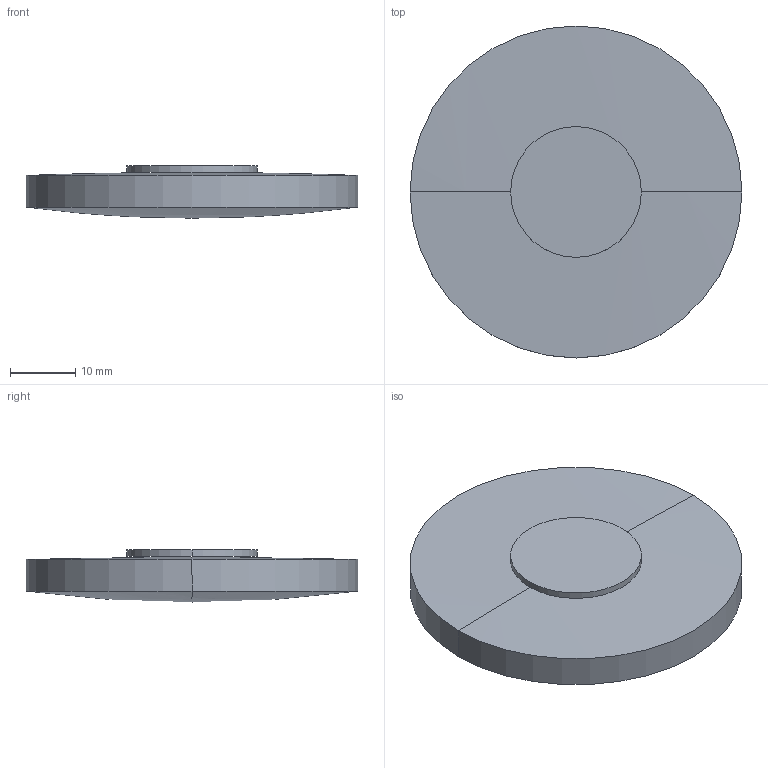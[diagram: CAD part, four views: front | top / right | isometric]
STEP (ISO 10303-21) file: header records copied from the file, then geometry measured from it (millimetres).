
FILE_DESCRIPTION(('STEP AP214'),'1');
FILE_NAME('LLF-51380.STEP','2020-03-09T17:41:31',(' '),(' '),'Spatial InterOp 3D',' ',' ');
FILE_SCHEMA(('AUTOMOTIVE_DESIGN { 1 0 10303 214 1 1 1 1 }'));
Length unit declared in the file: millimetre
Products named in the file (1): 1
Bounding box: 50.8 x 50.8 x 8 mm (x, y, z)
Volume: 12338 mm3; surface area: 5530.3 mm2
Topology: 2 solids, 2 shells, 10 faces, 20 edges, 10 vertices
Faces by surface type: sphere 4, cylinder 4, plane 2
Entity records: 255 total; most frequent: DIRECTION 52, CARTESIAN_POINT 38, ORIENTED_EDGE 32, AXIS2_PLACEMENT_3D 24, EDGE_CURVE 16, CIRCLE 12, ADVANCED_FACE 10, FACE_OUTER_BOUND 10
